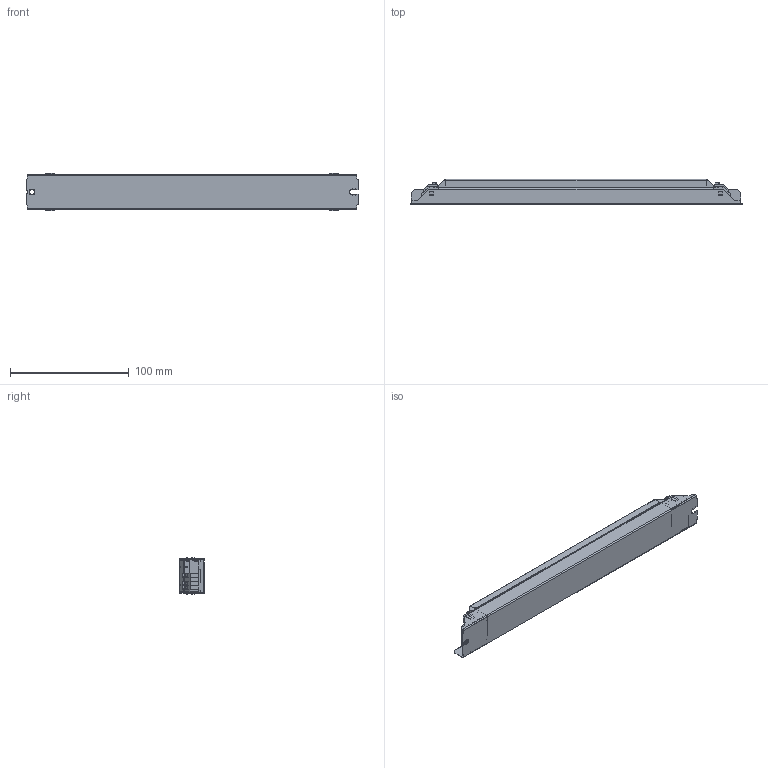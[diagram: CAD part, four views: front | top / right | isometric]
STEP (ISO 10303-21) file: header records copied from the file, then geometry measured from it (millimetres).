
FILE_DESCRIPTION (( 'STEP AP214' ), '1' );
FILE_NAME ('4183915swm000.step', '2020-01-15T09:27:22', ( 'OSRAM' ), ( 'OSRAM' ), 'SwSTEP 2.0', 'SolidWorks 2017', '' );
FILE_SCHEMA (( 'AUTOMOTIVE_DESIGN' ));
Length unit declared in the file: millimetre
Products named in the file (1): 4183915swm000
Bounding box: 279 x 21 x 31.39 mm (x, y, z)
Volume: 148465.6 mm3; surface area: 35745.8 mm2
Topology: 1 solids, 1 shells, 875 faces, 2358 edges, 1460 vertices
Faces by surface type: plane 657, cylinder 155, bspline 36, cone 27
Entity records: 37048 total; most frequent: CARTESIAN_POINT 6085, ORIENTED_EDGE 4716, DIRECTION 4040, EDGE_CURVE 2358, VECTOR 1848, LINE 1848, VERTEX_POINT 1460, AXIS2_PLACEMENT_3D 1096
